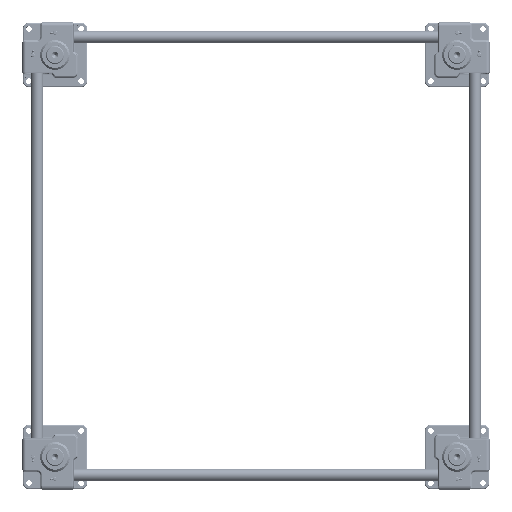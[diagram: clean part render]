
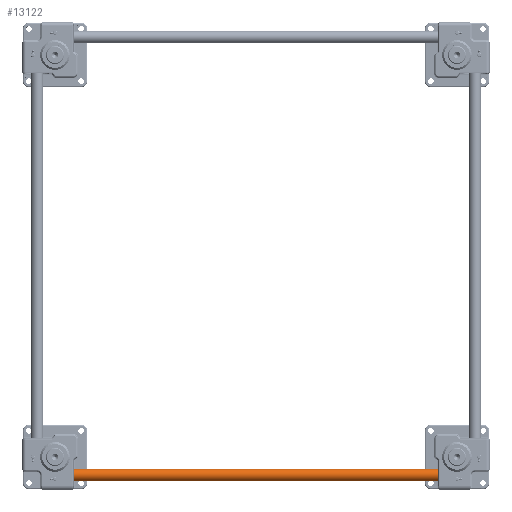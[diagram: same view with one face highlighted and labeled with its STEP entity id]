
A CAD part, top view. The second image highlights one B-rep face of the part: STEP entity #13122.
In plain terms, the highlighted cylindrical face has radius 15 mm (diameter 30 mm), a full revolution.
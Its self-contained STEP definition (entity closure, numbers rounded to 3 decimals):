
#13122=ADVANCED_FACE('',(#31082,#31083),#31084,.T.);
#31082=FACE_OUTER_BOUND('',#52593,.T.);
#31083=FACE_OUTER_BOUND('',#52594,.T.);
#31084=CYLINDRICAL_SURFACE('',#52595,15.0);
#52593=EDGE_LOOP('',(#124665));
#52594=EDGE_LOOP('',(#124666));
#52595=AXIS2_PLACEMENT_3D('',#124667,#124668,#124669);
#124665=ORIENTED_EDGE('',*,*,#147865,.T.);
#124666=ORIENTED_EDGE('',*,*,#147862,.T.);
#124667=CARTESIAN_POINT('',(0.0,0.0,1054.0));
#124668=DIRECTION('',(0.0,0.0,-1.0));
#124669=DIRECTION('',(-1.0,0.0,0.0));
#147862=EDGE_CURVE('',#186304,#186304,#186305,.F.);
#147865=EDGE_CURVE('',#186310,#186310,#186311,.T.);
#186304=VERTEX_POINT('',#251410);
#186305=CIRCLE('',#251411,15.0);
#186310=VERTEX_POINT('',#251416);
#186311=CIRCLE('',#251417,15.0);
#251410=CARTESIAN_POINT('',(15.0,0.0,1053.0));
#251411=AXIS2_PLACEMENT_3D('',#278982,#278983,#278984);
#251416=CARTESIAN_POINT('',(15.0,0.0,1.));
#251417=AXIS2_PLACEMENT_3D('',#278991,#278992,#278993);
#278982=CARTESIAN_POINT('',(0.0,0.0,1053.0));
#278983=DIRECTION('',(0.0,0.0,1.0));
#278984=DIRECTION('',(1.0,0.0,0.0));
#278991=CARTESIAN_POINT('',(0.0,0.0,1.));
#278992=DIRECTION('',(0.0,0.0,1.0));
#278993=DIRECTION('',(1.0,0.0,0.0));
